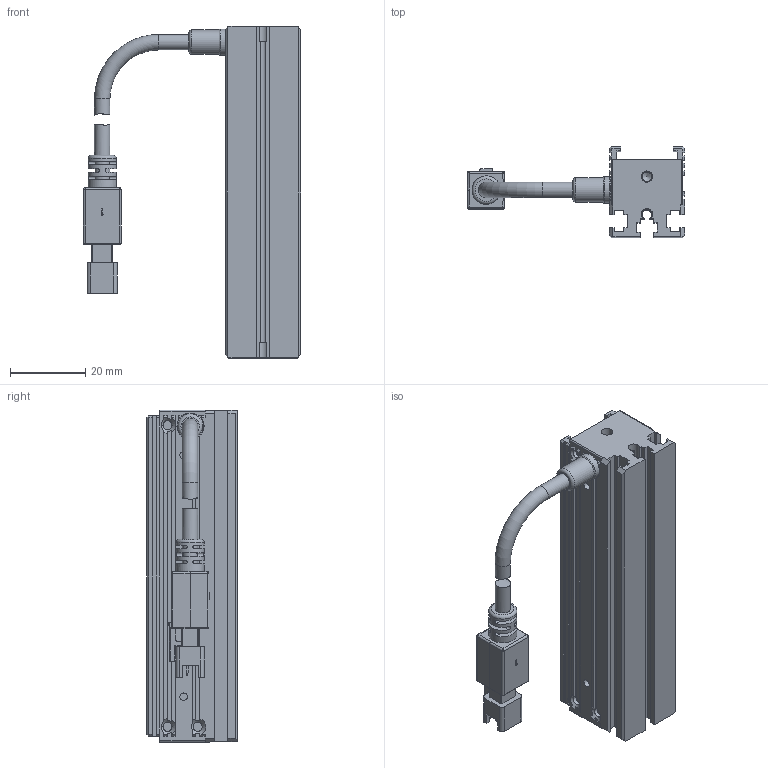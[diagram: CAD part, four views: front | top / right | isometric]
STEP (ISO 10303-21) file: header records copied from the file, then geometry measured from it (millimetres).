
FILE_DESCRIPTION (( 'STEP AP203' ), '1' );
FILE_NAME ('OPT-ULI8820-UV-V1.0 尨砩芞.STEP', '2024-12-10T08:34:24', ( '' ), ( '' ), 'SwSTEP 2.0', 'SolidWorks 2016', '' );
FILE_SCHEMA (( 'CONFIG_CONTROL_DESIGN' ));
Length unit declared in the file: millimetre
Products named in the file (1): OPT-ULI8820-UV-V1.0 尨砩芞
Bounding box: 57.6 x 24 x 88 mm (x, y, z)
Volume: 33487.4 mm3; surface area: 18345.8 mm2
Topology: 6 solids, 14 shells, 579 faces, 1500 edges, 960 vertices
Faces by surface type: plane 388, cylinder 134, cone 28, bspline 21, torus 8
Full cylindrical faces by diameter (mm): 1.1 x2, 1.4 x2, 1.6 x7, 2 x11, 2.4 x7, 2.5 x2, 3 x2, 3.5 x1, 4.1 x4, 6.5 x1, 7 x1, 7.5 x1
Entity records: 17806 total; most frequent: CARTESIAN_POINT 4154, ORIENTED_EDGE 2806, DIRECTION 2704, EDGE_CURVE 1403, VECTOR 960, LINE 960, VERTEX_POINT 936, AXIS2_PLACEMENT_3D 872
